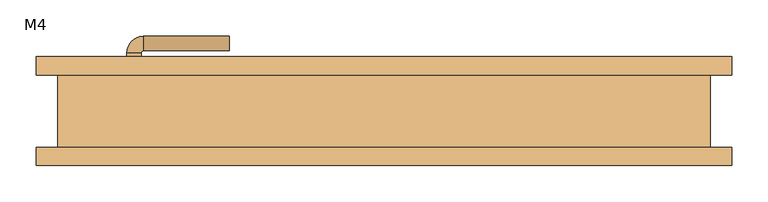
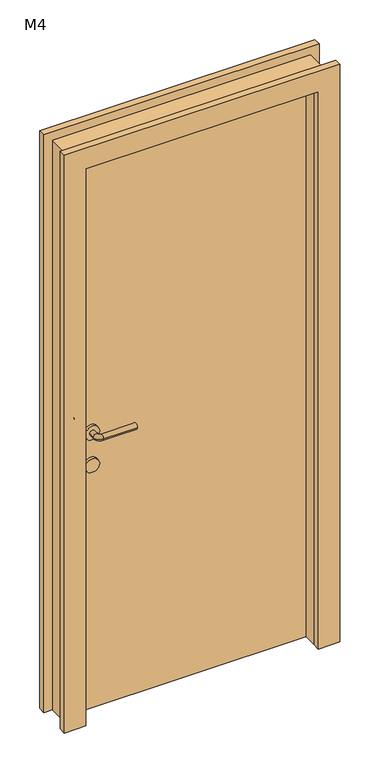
"""IFC4 building model written with IfcOpenShell, lengths in millimetres: door geometry, 单嵌板木门 1 : M4."""

import ifcopenshell
import ifcopenshell.guid

model = None  # the IFC model being written
_history = None  # IfcOwnerHistory: only IFC2X3 demands one
_inside = {}  # id of a spatial element -> (the spatial element, [elements in it])
_under = {}  # id of a project, library or spatial element -> (it, [spatial elements below it])
_declared = {}  # id of a project -> (the project, [libraries it declares])
_typed = {}  # id of a type object -> (the type object, [elements of that type])
_made_of = {}  # id of a material, layer set ... -> (it, [elements and type objects made of it])


def new_model(schema):
    """Start an empty IFC model of exactly this schema.

    Asked for "IFC4X3", IfcOpenShell would pick the latest addendum, in which some entities
    have other attributes; the version numbers below select the first issue.
    IFC2X3 requires an IfcOwnerHistory on every rooted entity: one is made here for all.
    """
    global model, _history
    if schema == "IFC4X3":
        model = ifcopenshell.file(schema_version=(4, 3, 0, 0))
    else:
        model = ifcopenshell.file(schema=schema)
    _inside.clear()
    _under.clear()
    _declared.clear()
    _typed.clear()
    _made_of.clear()
    _history = None
    if model.schema == "IFC2X3":
        org = make("IfcOrganization", Name="unknown")
        user = make(
            "IfcPersonAndOrganization",
            ThePerson=make("IfcPerson", FamilyName="unknown"),
            TheOrganization=org,
        )
        app = make(
            "IfcApplication",
            ApplicationDeveloper=org,
            Version="unknown",
            ApplicationFullName="unknown",
            ApplicationIdentifier="unknown",
        )
        _history = make(
            "IfcOwnerHistory",
            OwningUser=user,
            OwningApplication=app,
            ChangeAction="ADDED",
            CreationDate=0,
        )
    return model


def make(cls, **values):
    """One entity of the class cls with the attributes given. An attribute that is None is left unset."""
    return model.create_entity(
        cls, **{name: value for name, value in values.items() if value is not None}
    )


def rooted(cls, **values):
    """An entity with a GlobalId (a new one), such as an element, a storey or a relation."""
    return make(cls, GlobalId=ifcopenshell.guid.new(), OwnerHistory=_history, **values)


def si_unit(unit_type, name, prefix=None):
    """IfcSIUnit, for example si_unit("LENGTHUNIT", "METRE", prefix="MILLI")."""
    return make("IfcSIUnit", UnitType=unit_type, Prefix=prefix, Name=name)


def assignment(units):
    """IfcUnitAssignment: the units of a project."""
    return None if units is None else make("IfcUnitAssignment", Units=units)


def point(xyz):
    """IfcCartesianPoint."""
    return None if xyz is None else make("IfcCartesianPoint", Coordinates=xyz)


def direction(xyz):
    """IfcDirection."""
    return None if xyz is None else make("IfcDirection", DirectionRatios=xyz)


def frame(location, z_axis=None, x_axis=None):
    """IfcAxis2Placement3D, a coordinate frame: its origin and axes. An axis left out is left unset."""
    return make(
        "IfcAxis2Placement3D",
        Location=point(location),
        Axis=direction(z_axis),
        RefDirection=direction(x_axis),
    )


def frame_2d(location, x_axis=None):
    """IfcAxis2Placement2D, a coordinate frame in the plane: its origin and x axis."""
    return make(
        "IfcAxis2Placement2D", Location=point(location), RefDirection=direction(x_axis)
    )


def origin():
    """The frame at (0, 0, 0) with its axes left unset."""
    return frame((0.0, 0.0, 0.0))


def origin_with_axes():
    """The frame at (0, 0, 0) with the z axis (0, 0, 1) and the x axis (1, 0, 0) written out."""
    return frame((0.0, 0.0, 0.0), z_axis=(0.0, 0.0, 1.0), x_axis=(1.0, 0.0, 0.0))


def place(relative_to, where):
    """IfcLocalPlacement: puts the frame where relative to a parent placement (None: the world)."""
    return make(
        "IfcLocalPlacement", PlacementRelTo=relative_to, RelativePlacement=where
    )


def context(
    kind, dimensions, precision=None, world=None, true_north=None, identifier=None
):
    """IfcGeometricRepresentationContext, for example the 3D "Model" context."""
    return make(
        "IfcGeometricRepresentationContext",
        ContextIdentifier=identifier,
        ContextType=kind,
        CoordinateSpaceDimension=dimensions,
        Precision=precision,
        WorldCoordinateSystem=world,
        TrueNorth=true_north,
    )


def project(units=None, contexts=None):
    """IfcProject with its units and contexts."""
    return rooted(
        "IfcProject",
        Name="project",
        RepresentationContexts=contexts,
        UnitsInContext=assignment(units),
    )


def spatial(cls, under=None, at=None, **own):
    """A site, building, storey or space (cls), placed at a placement, below another one or the project."""
    s = rooted(cls, ObjectPlacement=at, **own)
    if under is not None:
        _under.setdefault(under.id(), (under, []))[1].append(s)
    return s


def polyline(points):
    """IfcPolyline through the points."""
    return make("IfcPolyline", Points=[point(p) for p in points])


def circle_curve(where, radius):
    """IfcCircle in the frame where."""
    return make("IfcCircle", Position=where, Radius=radius)


def ellipse_curve(where, semi_axis1, semi_axis2):
    """IfcEllipse in the frame where."""
    return make(
        "IfcEllipse", Position=where, SemiAxis1=semi_axis1, SemiAxis2=semi_axis2
    )


def trimmed(basis, trim1, trim2, sense, master):
    """IfcTrimmedCurve: the piece of a basis curve between two trims."""
    return make(
        "IfcTrimmedCurve",
        BasisCurve=basis,
        Trim1=trim1,
        Trim2=trim2,
        SenseAgreement=sense,
        MasterRepresentation=master,
    )


def segment(curve, same_sense, transition):
    """IfcCompositeCurveSegment."""
    return make(
        "IfcCompositeCurveSegment",
        Transition=transition,
        SameSense=same_sense,
        ParentCurve=curve,
    )


def composite_curve(segments, self_intersect=None):
    """IfcCompositeCurve: segments joined end to end."""
    return make("IfcCompositeCurve", Segments=segments, SelfIntersect=self_intersect)


def outline(outer, holes=None, kind="AREA"):
    """IfcArbitraryClosedProfileDef: a profile drawn as a closed curve; with holes, ...WithVoids."""
    if holes is None:
        return make("IfcArbitraryClosedProfileDef", ProfileType=kind, OuterCurve=outer)
    return make(
        "IfcArbitraryProfileDefWithVoids",
        ProfileType=kind,
        OuterCurve=outer,
        InnerCurves=holes,
    )


def extrude(swept, where, along, depth):
    """IfcExtrudedAreaSolid: the profile swept, set in the frame where, extruded along a direction by depth."""
    return make(
        "IfcExtrudedAreaSolid",
        SweptArea=swept,
        Position=where,
        ExtrudedDirection=direction(along),
        Depth=depth,
    )


def shape(context_of_items, identifier, shape_type, items):
    """IfcShapeRepresentation: the items that make up one representation, for example the "Body"."""
    return make(
        "IfcShapeRepresentation",
        ContextOfItems=context_of_items,
        RepresentationIdentifier=identifier,
        RepresentationType=shape_type,
        Items=items,
    )


def source(mapping_origin, context_of_items, identifier, shape_type, items):
    """IfcRepresentationMap: a shape defined once, which mapped items show again and again."""
    return make(
        "IfcRepresentationMap",
        MappingOrigin=mapping_origin,
        MappedRepresentation=shape(context_of_items, identifier, shape_type, items),
    )


def transform(
    local_origin,
    x_axis=None,
    y_axis=None,
    z_axis=None,
    scale=None,
    scale2=None,
    scale3=None,
    uniform=True,
):
    """IfcCartesianTransformationOperator3D, or its non-uniform kind. x_axis, y_axis, z_axis: its Axis1, 2, 3."""
    if uniform:
        return make(
            "IfcCartesianTransformationOperator3D",
            Axis1=direction(x_axis),
            Axis2=direction(y_axis),
            LocalOrigin=point(local_origin),
            Scale=scale,
            Axis3=direction(z_axis),
        )
    return make(
        "IfcCartesianTransformationOperator3DnonUniform",
        Axis1=direction(x_axis),
        Axis2=direction(y_axis),
        LocalOrigin=point(local_origin),
        Scale=scale,
        Axis3=direction(z_axis),
        Scale2=scale2,
        Scale3=scale3,
    )


def mapped(mapping_source, mapping_target):
    """IfcMappedItem: shows the shape of a source again, moved by a transform."""
    return make(
        "IfcMappedItem", MappingSource=mapping_source, MappingTarget=mapping_target
    )


def made_of(thing, what):
    """Note that an element or type object is made of a material, layer set ...; save() writes the relation."""
    if what is not None:
        _made_of.setdefault(what.id(), (what, []))[1].append(thing)
    return thing


def element(
    cls,
    number,
    at=None,
    inside=None,
    cuts=None,
    type_object=None,
    material=None,
    context=None,
    identifier="Body",
    shape_type=None,
    held_by="IfcProductDefinitionShape",
    body=None,
    shapes=None,
    **own,
):
    """One element of the class cls, such as IfcWall. Its Tag is "e" and its number.

    at: its placement. inside: the storey or other place that contains it. cuts: it is an
    opening in that element (IfcRelVoidsElement). A single representation is given by context,
    identifier, shape_type and body (its items); several are given by shapes. held_by: the class
    of the entity that holds the representations. save() writes the other relations.
    """
    e = rooted(cls, Tag="e%d" % number, ObjectPlacement=at, **own)
    if body is not None:
        shapes = [shape(context, identifier, shape_type, body)]
    if shapes is not None:
        e.Representation = make(held_by, Representations=shapes)
    if inside is not None:
        _inside.setdefault(inside.id(), (inside, []))[1].append(e)
    if cuts is not None:
        rooted(
            "IfcRelVoidsElement", RelatingBuildingElement=cuts, RelatedOpeningElement=e
        )
    if type_object is not None:
        _typed.setdefault(type_object.id(), (type_object, []))[1].append(e)
    return made_of(e, material)


def aggregate(whole, parts):
    """IfcRelAggregates: a whole, such as a stair, and the parts it consists of."""
    return rooted("IfcRelAggregates", RelatingObject=whole, RelatedObjects=parts)


def save(model, path):
    """Write the relations noted so far, then the file.

    IfcRelAggregates (storeys below a building ...), IfcRelContainedInSpatialStructure (elements
    in a storey), IfcRelDefinesByType, IfcRelAssociatesMaterial and IfcRelDeclares: one each for
    every whole, place, type object, material and project.
    """
    for whole, parts in _under.values():
        aggregate(whole, parts)
    for where, things in _inside.values():
        rooted(
            "IfcRelContainedInSpatialStructure",
            RelatedElements=things,
            RelatingStructure=where,
        )
    for kind, things in _typed.values():
        rooted("IfcRelDefinesByType", RelatedObjects=things, RelatingType=kind)
    for what, things in _made_of.values():
        rooted("IfcRelAssociatesMaterial", RelatedObjects=things, RelatingMaterial=what)
    for by, libraries in _declared.values():
        rooted("IfcRelDeclares", RelatingContext=by, RelatedDefinitions=libraries)
    model.write(path)


def plane_surface(at):
    """IfcPlane: the flat surface through the origin of the frame at, square to its z axis."""
    return make("IfcPlane", Position=at)


def cylinder_surface(at, radius):
    """IfcCylindricalSurface: all points at the distance radius from the z axis of the frame at."""
    return make("IfcCylindricalSurface", Position=at, Radius=radius)


def revolved_surface(curve, axis_point, axis_direction):
    """IfcSurfaceOfRevolution: the curve turned about the line through axis_point along axis_direction."""
    return make(
        "IfcSurfaceOfRevolution",
        SweptCurve=make("IfcArbitraryOpenProfileDef", ProfileType="CURVE", Curve=curve),
        AxisPosition=make("IfcAxis1Placement", Location=point(axis_point), Axis=direction(axis_direction)),
    )


def advanced_brep(points, edges, surfaces, faces):
    """IfcAdvancedBrep: a solid bounded by faces that lie on surfaces and meet in shared edges.

    An edge is (start, end): straight between two places in points (the first is 0);
    or (start, end, curve); or (start, end, curve, False) where it runs against its curve.
    A face is (place in surfaces, loops), or (place, loops, False) where it looks against
    its surface's normal. A loop lists edges by number (the first is 1), with a minus sign
    where the edge is run from its end to its start. The first loop is the outer one.
    """
    corners = [point(p) for p in points]
    vertices = [make("IfcVertexPoint", VertexGeometry=c) for c in corners]
    made = []
    for start, end, *more in edges:
        made.append(
            make(
                "IfcEdgeCurve",
                EdgeStart=vertices[start],
                EdgeEnd=vertices[end],
                EdgeGeometry=more[0] if more else make("IfcPolyline", Points=[corners[start], corners[end]]),
                SameSense=more[1] if len(more) > 1 else True,
            )
        )
    hull = []
    for where, loops, *sense in faces:
        bounds = []
        for j, loop in enumerate(loops):
            ring = [make("IfcOrientedEdge", EdgeElement=made[abs(k) - 1], Orientation=k > 0) for k in loop]
            bounds.append(
                make(
                    "IfcFaceOuterBound" if j == 0 else "IfcFaceBound",
                    Bound=make("IfcEdgeLoop", EdgeList=ring),
                    Orientation=True,
                )
            )
        hull.append(make("IfcAdvancedFace", Bounds=bounds, FaceSurface=surfaces[where], SameSense=sense[0] if sense else True))
    return make("IfcAdvancedBrep", Outer=make("IfcClosedShell", CfsFaces=hull))


def m4_a67fd2dd(model_context):
    return source(origin(), model_context, "Body", "SolidModel", [
        extrude(outline(composite_curve([segment(trimmed(circle_curve(frame_2d((900.0, -345.0)), 25.0), [point((900.0, -320.0))], [point((900.0, -370.0))], False, "CARTESIAN"), True, "CONTINUOUS"), segment(trimmed(circle_curve(frame_2d((900.0, -345.0)), 25.0), [point((900.0, -370.0))], [point((900.0, -320.0))], False, "CARTESIAN"), True, "CONTINUOUS")], self_intersect=False)), frame((0.0, -10.0, 0.0), z_axis=(0.0, 1.0, 0.0), x_axis=(0.0, 0.0, 1.0)), (0.0, 0.0, 1.0), 10.0),
        extrude(outline(composite_curve([segment(trimmed(circle_curve(frame_2d((900.0, -345.0)), 25.0), [point((900.0, -320.0))], [point((900.0, -370.0))], False, "CARTESIAN"), True, "CONTINUOUS"), segment(trimmed(circle_curve(frame_2d((900.0, -345.0)), 25.0), [point((900.0, -370.0))], [point((900.0, -320.0))], False, "CARTESIAN"), True, "CONTINUOUS")], self_intersect=False)), frame((0.0, 50.0, 0.0), z_axis=(0.0, 1.0, 0.0), x_axis=(0.0, 0.0, 1.0)), (0.0, 0.0, 1.0), 10.0),
        advanced_brep(
        [(-355.0, -10.0, 1020.0), (-335.0, -10.0, 1020.0), (-335.0, -30.613355, 1020.0), (-355.0, -30.613355, 1020.0), (-213.419036, -53.580964, 1020.0), (-213.419036, -33.580964, 1020.0), (-332.0323911, -33.580964, 1020.0), (-332.0323911, -53.580964, 1020.0)],
        [
            (0, 1, circle_curve(frame((-345.0, -10.0, 1020.0), z_axis=(0.0, 1.0, 0.0), x_axis=(1.0, 0.0, 0.0)), 10.0)),
            (1, 0, circle_curve(frame((-345.0, -10.0, 1020.0), z_axis=(0.0, 1.0, 0.0), x_axis=(1.0, 0.0, 0.0)), 10.0)),
            (1, 2),
            (2, 3, circle_curve(frame((-345.0, -30.613355, 1020.0), z_axis=(0.0, 1.0, 0.0), x_axis=(1.0, 0.0, 0.0)), 10.0)),
            (3, 0),
            (3, 2, circle_curve(frame((-345.0, -30.613355, 1020.0), z_axis=(0.0, 1.0, 0.0), x_axis=(1.0, 0.0, 0.0)), 10.0)),
            (4, 5, circle_curve(frame((-213.419036, -43.580964, 1020.0), z_axis=(1.0, 0.0, 0.0), x_axis=(0.0, 1.0, 0.0)), 10.0)),
            (5, 4, circle_curve(frame((-213.419036, -43.580964, 1020.0), z_axis=(1.0, 0.0, 0.0), x_axis=(0.0, 1.0, 0.0)), 10.0)),
            (6, 2, circle_curve(frame((-332.0323911, -30.613355, 1020.0), z_axis=(0.0, 0.0, -1.0), x_axis=(-1.0, 0.0, 0.0)), 2.9676089)),
            (3, 7, circle_curve(frame((-332.0323911, -30.613355, 1020.0), z_axis=(0.0, 0.0, 1.0), x_axis=(-1.0, 0.0, 0.0)), 22.9676089)),
            (7, 6, circle_curve(frame((-332.0323911, -43.580964, 1020.0), z_axis=(-1.0, 0.0, 0.0), x_axis=(0.0, 1.0, 0.0)), 10.0)),
            (6, 7, circle_curve(frame((-332.0323911, -43.580964, 1020.0), z_axis=(-1.0, 0.0, 0.0), x_axis=(0.0, 1.0, 0.0)), 10.0)),
            (7, 4),
            (5, 6),
        ],
        [
            plane_surface(frame((-345.0, -10.0, 900.0), z_axis=(0.0, 1.0, 0.0), x_axis=(0.0, 0.0, 1.0))),
            cylinder_surface(frame((-345.0, -10.0, 1020.0), z_axis=(0.0, 1.0, 0.0), x_axis=(1.0, 0.0, 0.0)), 10.0),
            plane_surface(frame((-213.419036, -43.580964, 900.0), z_axis=(1.0, 0.0, 0.0), x_axis=(0.0, 0.0, 1.0))),
            revolved_surface(trimmed(ellipse_curve(frame((-345.0, -30.613355, 1020.0), z_axis=(0.0, 1.0, 0.0), x_axis=(1.0, 0.0, 0.0)), 10.0, 10.0), [point((-355.0, -30.613355, 1020.0))], [point((-335.0, -30.613355, 1020.0))], True, "CARTESIAN"), (-332.0323911, -30.613355, 900.0), (0.0, 0.0, 1.0)),
            revolved_surface(trimmed(ellipse_curve(frame((-345.0, -30.613355, 1020.0), z_axis=(0.0, 1.0, 0.0), x_axis=(1.0, 0.0, 0.0)), 10.0, 10.0), [point((-335.0, -30.613355, 1020.0))], [point((-355.0, -30.613355, 1020.0))], True, "CARTESIAN"), (-332.0323911, -30.613355, 900.0), (0.0, 0.0, 1.0)),
            cylinder_surface(frame((-332.0323911, -43.580964, 1020.0), z_axis=(-1.0, 0.0, 0.0), x_axis=(0.0, 1.0, 0.0)), 10.0),
        ],
        [
            (0, [[1, 2]]),
            (1, [[-2, 3, 4, 5]]),
            (1, [[-1, -5, 6, -3]]),
            (2, [[7, 8]]),
            (3, [[9, -6, 10, 11]]),
            (4, [[-10, -4, -9, 12]]),
            (5, [[-11, 13, -8, 14]]),
            (5, [[-12, -14, -7, -13]]),
        ],
    ),
        extrude(outline(composite_curve([segment(trimmed(circle_curve(frame_2d((1020.0, -345.0)), 25.0), [point((1020.0, -320.0))], [point((1020.0, -370.0))], False, "CARTESIAN"), True, "CONTINUOUS"), segment(trimmed(circle_curve(frame_2d((1020.0, -345.0)), 25.0), [point((1020.0, -370.0))], [point((1020.0, -320.0))], False, "CARTESIAN"), True, "CONTINUOUS")], self_intersect=False)), frame((0.0, -10.0, 0.0), z_axis=(0.0, 1.0, 0.0), x_axis=(0.0, 0.0, 1.0)), (0.0, 0.0, 1.0), 10.0),
        advanced_brep(
        [(-335.0, 60.0, 1020.0), (-355.0, 60.0, 1020.0), (-335.0, 80.6133551, 1020.0), (-355.0, 80.6133551, 1020.0), (-213.419036, 83.580964, 1020.0), (-213.419036, 103.580964, 1020.0), (-332.0323911, 103.580964, 1020.0), (-332.0323911, 83.580964, 1020.0)],
        [
            (0, 1, circle_curve(frame((-345.0, 60.0, 1020.0), z_axis=(0.0, -1.0, 0.0), x_axis=(-1.0, 0.0, 0.0)), 10.0)),
            (1, 0, circle_curve(frame((-345.0, 60.0, 1020.0), z_axis=(0.0, -1.0, 0.0), x_axis=(-1.0, 0.0, 0.0)), 10.0)),
            (0, 2),
            (2, 3, circle_curve(frame((-345.0, 80.6133551, 1020.0), z_axis=(0.0, -1.0, 0.0), x_axis=(-1.0, 0.0, 0.0)), 10.0)),
            (3, 1),
            (3, 2, circle_curve(frame((-345.0, 80.6133551, 1020.0), z_axis=(0.0, -1.0, 0.0), x_axis=(-1.0, 0.0, 0.0)), 10.0)),
            (4, 5, circle_curve(frame((-213.419036, 93.580964, 1020.0), z_axis=(1.0, 0.0, 0.0), x_axis=(0.0, 1.0, 0.0)), 10.0)),
            (5, 4, circle_curve(frame((-213.419036, 93.580964, 1020.0), z_axis=(1.0, 0.0, 0.0), x_axis=(0.0, 1.0, 0.0)), 10.0)),
            (6, 3, circle_curve(frame((-332.0323911, 80.6133551, 1020.0), z_axis=(0.0, 0.0, 1.0), x_axis=(-1.0, 0.0, 0.0)), 22.9676089)),
            (2, 7, circle_curve(frame((-332.0323911, 80.6133551, 1020.0), z_axis=(0.0, 0.0, -1.0), x_axis=(-1.0, 0.0, 0.0)), 2.9676089)),
            (7, 6, circle_curve(frame((-332.0323911, 93.580964, 1020.0), z_axis=(-1.0, 0.0, 0.0), x_axis=(0.0, 1.0, 0.0)), 10.0)),
            (6, 7, circle_curve(frame((-332.0323911, 93.580964, 1020.0), z_axis=(-1.0, 0.0, 0.0), x_axis=(0.0, 1.0, 0.0)), 10.0)),
            (7, 4),
            (5, 6),
        ],
        [
            plane_surface(frame((-345.0, 60.0, 900.0), z_axis=(0.0, -1.0, 0.0), x_axis=(0.0, 0.0, 1.0))),
            cylinder_surface(frame((-345.0, 60.0, 1020.0), z_axis=(0.0, -1.0, 0.0), x_axis=(-1.0, 0.0, 0.0)), 10.0),
            plane_surface(frame((-213.419036, 93.580964, 900.0), z_axis=(1.0, 0.0, 0.0), x_axis=(0.0, 0.0, 1.0))),
            revolved_surface(trimmed(ellipse_curve(frame((-345.0, 80.6133551, 1020.0), z_axis=(0.0, -1.0, 0.0), x_axis=(-1.0, 0.0, 0.0)), 10.0, 10.0), [point((-335.0, 80.6133551, 1020.0))], [point((-355.0, 80.6133551, 1020.0))], True, "CARTESIAN"), (-332.0323911, 80.6133551, 900.0), (0.0, 0.0, -1.0)),
            revolved_surface(trimmed(ellipse_curve(frame((-345.0, 80.6133551, 1020.0), z_axis=(0.0, -1.0, 0.0), x_axis=(-1.0, 0.0, 0.0)), 10.0, 10.0), [point((-355.0, 80.6133551, 1020.0))], [point((-335.0, 80.6133551, 1020.0))], True, "CARTESIAN"), (-332.0323911, 80.6133551, 900.0), (0.0, 0.0, -1.0)),
            cylinder_surface(frame((-332.0323911, 93.580964, 1020.0), z_axis=(-1.0, 0.0, 0.0), x_axis=(0.0, 1.0, 0.0)), 10.0),
        ],
        [
            (0, [[1, 2]]),
            (1, [[-1, 3, 4, 5]]),
            (1, [[-2, -5, 6, -3]]),
            (2, [[7, 8]]),
            (3, [[9, -4, 10, 11]]),
            (4, [[-10, -6, -9, 12]]),
            (5, [[-11, 13, -8, 14]]),
            (5, [[-12, -14, -7, -13]]),
        ],
    ),
        extrude(outline(composite_curve([segment(trimmed(circle_curve(frame_2d((1020.0, -345.0)), 25.0), [point((1020.0, -320.0))], [point((1020.0, -370.0))], False, "CARTESIAN"), True, "CONTINUOUS"), segment(trimmed(circle_curve(frame_2d((1020.0, -345.0)), 25.0), [point((1020.0, -370.0))], [point((1020.0, -320.0))], False, "CARTESIAN"), True, "CONTINUOUS")], self_intersect=False)), frame((0.0, 50.0, 0.0), z_axis=(0.0, 1.0, 0.0), x_axis=(0.0, 0.0, 1.0)), (0.0, 0.0, 1.0), 10.0),
        extrude(outline(polyline([(0.0, 480.0), (2130.0, 480.0), (2130.0, -480.0), (0.0, -480.0), (0.0, -405.0), (2055.0, -405.0), (2055.0, 405.0), (0.0, 405.0), (0.0, 480.0)])), frame((0.0, 50.0, 0.0), z_axis=(0.0, 1.0, 0.0), x_axis=(0.0, 0.0, 1.0)), (0.0, 0.0, 1.0), 25.0),
        extrude(outline(polyline([(2130.0, 480.0), (2130.0, -480.0), (0.0, -480.0), (0.0, -405.0), (2055.0, -405.0), (2055.0, 405.0), (0.0, 405.0), (0.0, 480.0), (2130.0, 480.0)])), frame((0.0, -75.0, 0.0), z_axis=(0.0, 1.0, 0.0), x_axis=(0.0, 0.0, 1.0)), (0.0, 0.0, 1.0), 25.0),
        extrude(outline(polyline([(405.0, 0.0), (-405.0, 0.0), (-405.0, 50.0), (405.0, 50.0), (405.0, 0.0)])), origin_with_axes(), (0.0, 0.0, 1.0), 2055.0),
        extrude(outline(polyline([(2100.0, -450.0), (0.0, -450.0), (0.0, -405.0), (2055.0, -405.0), (2055.0, 405.0), (0.0, 405.0), (0.0, 450.0), (2100.0, 450.0), (2100.0, -450.0)])), frame((0.0, -50.0, 0.0), z_axis=(0.0, 1.0, 0.0), x_axis=(0.0, 0.0, 1.0)), (0.0, 0.0, 1.0), 100.0),
    ])


if __name__ == "__main__":
    model = new_model("IFC4")
    model_context = context("Model", 3, world=origin())
    ifc_project = project(units=[si_unit("LENGTHUNIT", "METRE", prefix="MILLI")], contexts=[model_context])
    site = spatial("IfcSite", under=ifc_project)
    building = spatial("IfcBuilding", under=site)
    placement = place(None, origin())
    m4_shape = m4_a67fd2dd(model_context)
    element("IfcDoor", 1, ObjectType="单嵌板木门 1 : M4", at=placement, inside=building, context=model_context, shape_type="MappedRepresentation", body=[
        mapped(m4_shape, transform((0.0, 0.0, 0.0), x_axis=(1.0, 0.0, 0.0), y_axis=(0.0, 1.0, 0.0), z_axis=(0.0, 0.0, 1.0))),
    ])
    save(model, "model.ifc")
